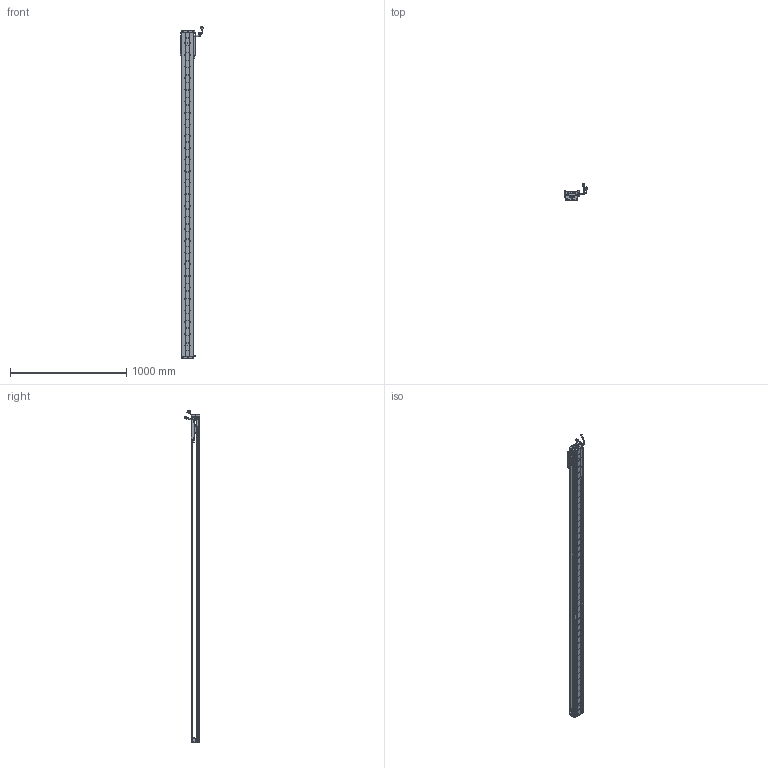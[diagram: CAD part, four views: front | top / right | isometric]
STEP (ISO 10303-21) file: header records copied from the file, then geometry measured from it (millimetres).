
FILE_DESCRIPTION (( 'STEP AP203' ), '1' );
FILE_NAME ('Z2-RY100D-1-L500-B-K.SLDASM_2550.step', '2021-05-17T02:38:03', ( '盈信电脑' ), ( '东莞市道滘镇水果街19号' ), 'SwSTEP 2.0', 'SolidWorks 2016', '' );
FILE_SCHEMA (( 'CONFIG_CONTROL_DESIGN' ));
Length unit declared in the file: millimetre
Products named in the file (36): 140雄赽晤鎢ん堤盄; COVER-Part-1; Z-100詩湍傷裔啣; 榋妏寠巭燃_暯_M2_2; LABEL; SEAL-Part-1; LABEL-Part-1; Z2-RY100铝滑块（21款）; SCALE-Part-1; SCALE; SCREW-M1.7-1; SCREW-M1.6; Z-RY100D詩湍奻揤裔; HARNESS-Part-1; SCREW-M1.6-2; HOLDER0; SCREW-M1.7; Z2-RY100-L500詩湍90mm遵_2550; Z-RY100D詩湍狟揤裔; SCALE-Part-2; 100-Z-臏賑輸盄裔(21遴); SCREW-M1.6-1; 覜茼ん672; Z2-RY100D-1-L500-B-K.SLDASM_2550; 080黍杅芛假蚾釱21遴; Z-RY100D覜茼んえ; SCREW-M1.6-3; PSLH080_PSLF2; COVER; SEAL; HARNESS-Part-2; Z2-RY100D-500-倰第菁釱_2550; SHIELDPLATE; HARNESS; PBU_SHEET; 140蚥薯蝶輸
Assembly tree (43 placements, depth 4):
  Z2-RY100D-1-L500-B-K.SLDASM_2550
    Z2-RY100D-500-倰第菁釱_2550
    Z2-RY100铝滑块（21款）
    PSLH080_PSLF2
      SCALE
        SCALE-Part-1
        SCALE-Part-2
      HARNESS
        HARNESS-Part-1
        HARNESS-Part-2
      LABEL
        LABEL-Part-1
      COVER
        COVER-Part-1
      SEAL
        SEAL-Part-1
      榋妏寠巭燃_暯_M2_2
      SHIELDPLATE
      SCREW-M1.7
      SCREW-M1.7-1
      PBU_SHEET
      SCREW-M1.6
      SCREW-M1.6-1
      SCREW-M1.6-2
      SCREW-M1.6-3
      HOLDER0
    080黍杅芛假蚾釱21遴
    Z-100詩湍傷裔啣  x2
    140蚥薯蝶輸  x2
    覜茼ん672  x3
    Z-RY100D覜茼んえ  x3
    100-Z-臏賑輸盄裔(21遴)
    140雄赽晤鎢ん堤盄
    Z2-RY100-L500詩湍90mm遵_2550
    Z-RY100D詩湍狟揤裔  x2
    Z-RY100D詩湍奻揤裔  x2
Bounding box: 205.79 x 136.11 x 2855.43 mm (x, y, z)
Volume: 5091401.1 mm3; surface area: 2023279.3 mm2
Topology: 38 solids, 38 shells, 3020 faces, 8277 edges, 5292 vertices
Faces by surface type: cylinder 1494, plane 1186, cone 218, torus 69, bspline 53
Entity records: 87905 total; most frequent: CARTESIAN_POINT 18432, DIRECTION 14173, ORIENTED_EDGE 13450, EDGE_CURVE 6725, AXIS2_PLACEMENT_3D 5333, VERTEX_POINT 4360, VECTOR 3507, LINE 3507
